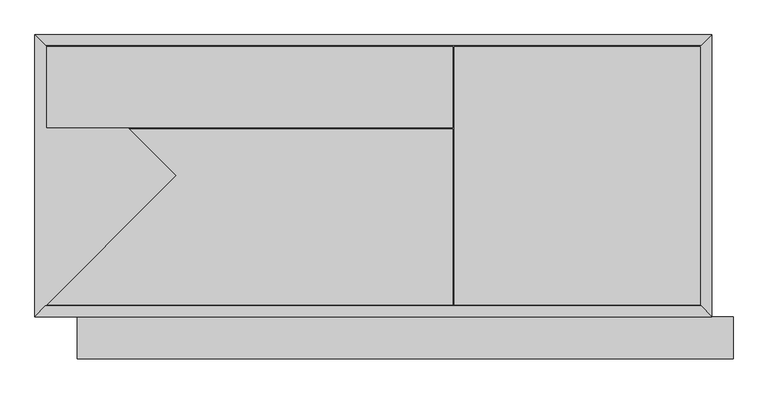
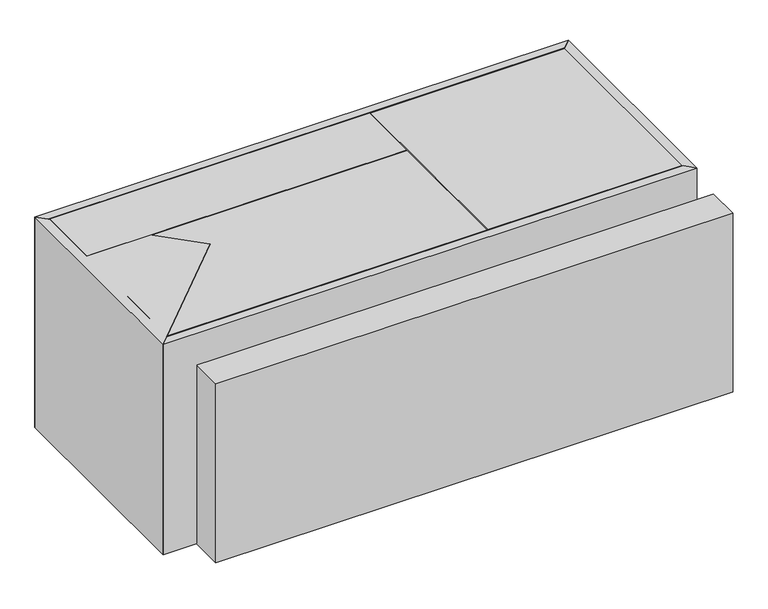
"""IFC4 building model written with IfcOpenShell, lengths in millimetres: proxy geometry, CCN^APOGEE_L3 30 SHELF STORAGE (20 DEEP)-PARTS SOLID."""

from ifc_helpers import new_model, si_unit, frame, origin, origin_with_axes, place, context, project, spatial, polyline, outline, extrude, source, transform, mapped, element, save


def generic_models_822ae202(model_context):
    return source(origin(), model_context, "Body", "SweptSolid", [
        extrude(outline(polyline([(2.38125, 467.51875), (733.425, 467.51875), (733.425, 321.46875), (2.38125, 321.46875), (2.38125, 467.51875)])), frame((0.0, 0.0, 488.95), z_axis=(0.0, 0.0, 1.0), x_axis=(1.0, 0.0, 0.0)), (0.0, 0.0, 1.0), 19.05),
        extrude(outline(polyline([(742.95, 0.0), (723.9, 0.0), (723.9, 469.9), (742.95, 469.9), (742.95, 0.0)])), frame((0.0, 0.0, 19.05), z_axis=(0.0, 0.0, 1.0), x_axis=(1.0, 0.0, 0.0)), (0.0, 0.0, 1.0), 466.725),
        extrude(outline(polyline([(0.0, 0.0), (1181.1, 0.0), (1200.15, -19.05), (-19.05, -19.05), (0.0, 0.0)])), origin_with_axes(), (0.0, 0.0, 1.0), 508.0),
        extrude(outline(polyline([(-19.05, 488.95), (234.95, 234.95), (-19.05, -19.05), (-19.05, 488.95)])), origin_with_axes(), (0.0, 0.0, 1.0), 508.0),
        extrude(outline(polyline([(2.38125, 319.0875), (733.425, 319.0875), (733.425, 2.38125), (2.38125, 2.38125), (2.38125, 319.0875)])), frame((0.0, 0.0, 488.95), z_axis=(0.0, 0.0, 1.0), x_axis=(1.0, 0.0, 0.0)), (0.0, 0.0, 1.0), 19.05),
        extrude(outline(polyline([(1181.1, 469.9), (0.0, 469.9), (-19.05, 488.95), (1200.15, 488.95), (1181.1, 469.9)])), origin_with_axes(), (0.0, 0.0, 1.0), 508.0),
        extrude(outline(polyline([(735.80625, 2.38125), (735.80625, 467.51875), (1178.71875, 467.51875), (1178.71875, 2.38125), (735.80625, 2.38125)])), frame((0.0, 0.0, 488.95), z_axis=(0.0, 0.0, 1.0), x_axis=(1.0, 0.0, 0.0)), (0.0, 0.0, 1.0), 19.05),
        extrude(outline(polyline([(57.15, -95.25), (57.15, -19.05), (1238.25, -19.05), (1238.25, -95.25), (57.15, -95.25)])), origin_with_axes(), (0.0, 0.0, 1.0), 431.8),
        extrude(outline(polyline([(946.15, 234.95), (1200.15, 488.95), (1200.15, -19.05), (946.15, 234.95)])), origin_with_axes(), (0.0, 0.0, 1.0), 508.0),
        extrude(outline(polyline([(1181.1, 469.9), (1181.1, 0.0), (0.0, 0.0), (0.0, 469.9), (1181.1, 469.9)])), origin_with_axes(), (0.0, 0.0, 1.0), 19.05),
    ])


if __name__ == "__main__":
    model = new_model("IFC4")
    model_context = context("Model", 3, world=origin())
    ifc_project = project(units=[si_unit("LENGTHUNIT", "METRE", prefix="MILLI")], contexts=[model_context])
    site = spatial("IfcSite", under=ifc_project)
    building = spatial("IfcBuilding", under=site)
    placement = place(None, origin())
    generic_models_shape = generic_models_822ae202(model_context)
    element("IfcBuildingElementProxy", 1, Name="CCN^APOGEE_L3 30 SHELF STORAGE (20 DEEP)-PARTS SOLID", ObjectType="CCN^APOGEE_L3 30 SHELF STORAGE (20 DEEP)-PARTS SOLID", at=placement, inside=building, context=model_context, shape_type="MappedRepresentation", body=[
        mapped(generic_models_shape, transform((0.0, 0.0, 0.0), x_axis=(1.0, 0.0, 0.0), y_axis=(0.0, 1.0, 0.0), z_axis=(0.0, 0.0, 1.0))),
    ])
    save(model, "model.ifc")
